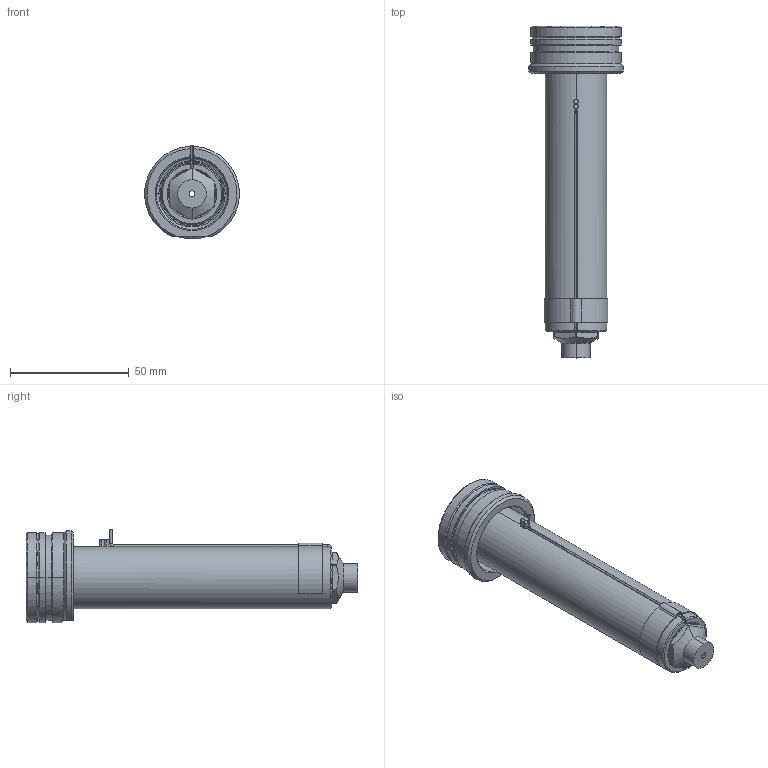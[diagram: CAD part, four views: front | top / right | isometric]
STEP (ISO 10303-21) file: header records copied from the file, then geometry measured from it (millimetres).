
FILE_DESCRIPTION((''),'2;1');
FILE_NAME('EO08_VG-FB_WR_120_SW','2024-02-19T13:31:24',('sundharh'),(''),'CREO PARAMETRIC BY PTC INC, 2023154','CREO PARAMETRIC BY PTC INC, 2023154','');
FILE_SCHEMA(('CONFIG_CONTROL_DESIGN'));
Length unit declared in the file: millimetre
Products named in the file (1): EO08_VG-FB_WR_120_SW
Bounding box: 39.88 x 140 x 39.52 mm (x, y, z)
Volume: 73567.8 mm3; surface area: 21524.6 mm2
Topology: 1 solids, 1 shells, 202 faces, 494 edges, 299 vertices
Faces by surface type: cylinder 72, plane 46, cone 41, torus 29, bspline 12, sphere 2
Entity records: 7326 total; most frequent: CARTESIAN_POINT 2468, DIRECTION 1089, ORIENTED_EDGE 980, EDGE_CURVE 490, AXIS2_PLACEMENT_3D 458, VERTEX_POINT 299, CIRCLE 268, EDGE_LOOP 219
